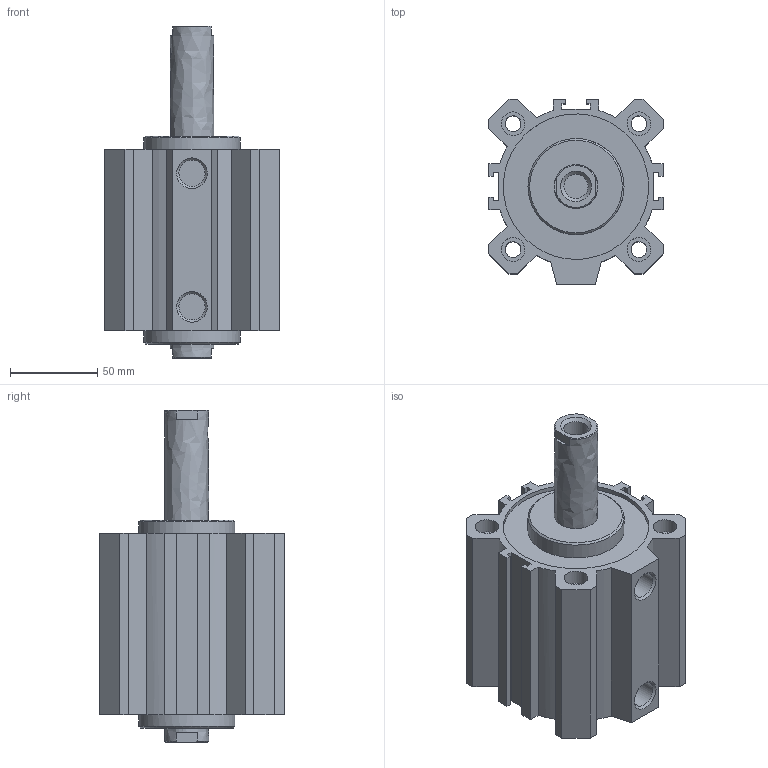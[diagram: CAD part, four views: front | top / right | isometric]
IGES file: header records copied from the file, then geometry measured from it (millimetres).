
Global section: file name: 1514_80_0055; native system: Autodesk Inventor 2014; preprocessor: unknown; author: A. Manieri; date: 20160824.142357; units: millimetre
Bounding box: 100 x 106 x 190 mm (x, y, z)
Volume: 650255.1 mm3; surface area: 149419.8 mm2
Topology: 2 solids, 2 shells, 132 faces, 346 edges, 238 vertices
Faces by surface type: bspline 132
